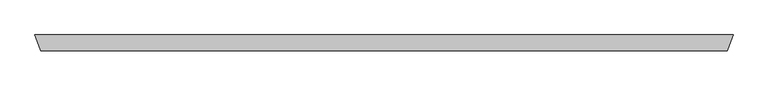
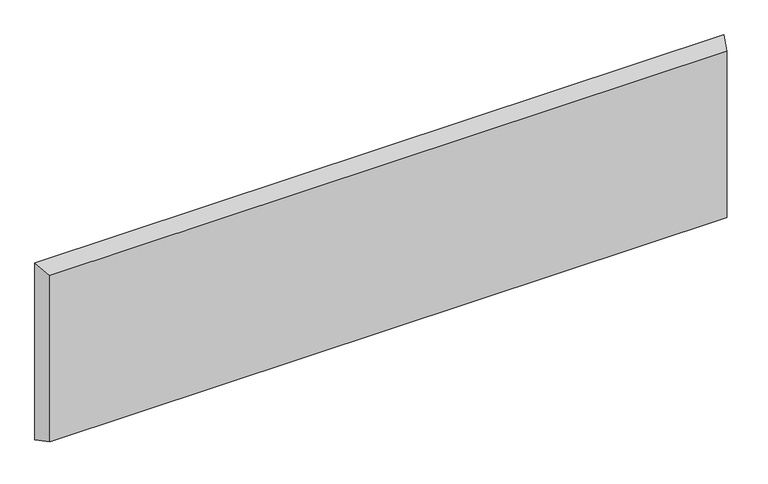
"""IFC4 building model written with IfcOpenShell, lengths in millimetres: proxy geometry, GRADIENT^TABLE 5_PRISM BASE-BASE."""

from ifc_helpers import new_model, si_unit, origin, place, context, project, spatial, faceted_brep, source, transform, mapped, element, save


def generic_models_8cdc151c(model_context):
    return source(origin(), model_context, "Body", "Brep", [
        faceted_brep([(1905.4583497, -711.2, -787.8583497), (1905.4583497, -711.2, -431.3416503), (532.9416503, -711.2, -431.3416503), (532.9416503, -711.2, -787.8583497), (1917.0144047, -679.45, -419.7855953), (1917.0144047, -679.45, -799.4144047), (521.3855953, -679.45, -799.4144047), (521.3855953, -679.45, -419.7855953)], [[[0, 1, 2, 3]], [[4, 5, 6, 7]], [[5, 0, 3, 6]], [[1, 4, 7, 2]], [[3, 2, 7, 6]], [[1, 0, 5, 4]]]),
    ])


if __name__ == "__main__":
    model = new_model("IFC4")
    model_context = context("Model", 3, world=origin())
    ifc_project = project(units=[si_unit("LENGTHUNIT", "METRE", prefix="MILLI")], contexts=[model_context])
    site = spatial("IfcSite", under=ifc_project)
    building = spatial("IfcBuilding", under=site)
    placement = place(None, origin())
    generic_models_shape = generic_models_8cdc151c(model_context)
    element("IfcBuildingElementProxy", 1, Name="GRADIENT^TABLE 5_PRISM BASE-BASE", ObjectType="GRADIENT^TABLE 5_PRISM BASE-BASE", at=placement, inside=building, context=model_context, shape_type="MappedRepresentation", body=[
        mapped(generic_models_shape, transform((0.0, 0.0, 0.0), x_axis=(1.0, 0.0, 0.0), y_axis=(0.0, 1.0, 0.0), z_axis=(0.0, 0.0, 1.0))),
    ])
    save(model, "model.ifc")
